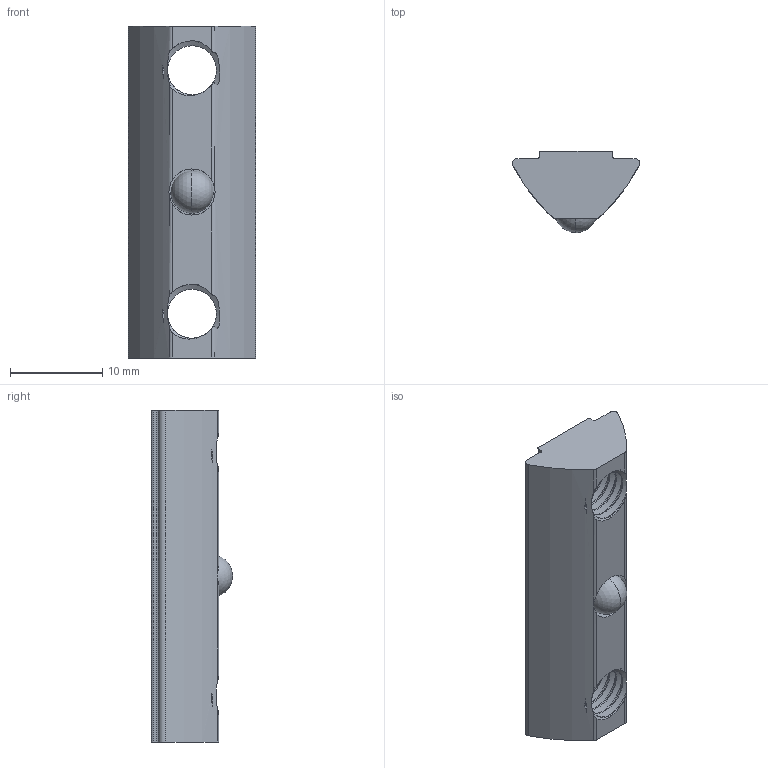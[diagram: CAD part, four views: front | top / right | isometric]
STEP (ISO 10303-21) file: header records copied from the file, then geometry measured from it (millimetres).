
FILE_DESCRIPTION (( 'STEP AP203' ), '1' );
FILE_NAME ('355045_Nutenstein 8 2xM6 L=36mm einschwenkbar mit Kugel und Steg.step', '2022-04-07T12:34:08', ( '' ), ( '' ), 'SwSTEP 2.0', 'SolidWorks 2021', '' );
FILE_SCHEMA (( 'CONFIG_CONTROL_DESIGN' ));
Length unit declared in the file: millimetre
Products named in the file (1): 355045_Nutenstein 8 2xM6 L=36mm einschwenkbar mit Kugel und Steg
Bounding box: 13.8 x 8.8 x 36 mm (x, y, z)
Volume: 2128.4 mm3; surface area: 1915.8 mm2
Topology: 2 solids, 2 shells, 75 faces, 232 edges, 155 vertices
Faces by surface type: cylinder 51, plane 12, bspline 10, sphere 2
Entity records: 6770 total; most frequent: CARTESIAN_POINT 4957, ORIENTED_EDGE 454, DIRECTION 273, EDGE_CURVE 227, VERTEX_POINT 152, AXIS2_PLACEMENT_3D 100, EDGE_LOOP 79, ADVANCED_FACE 75
